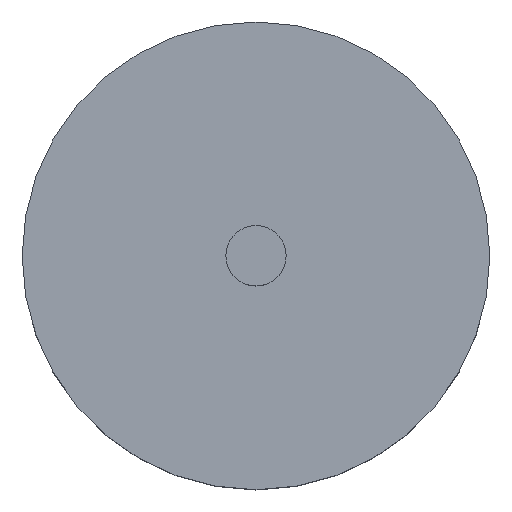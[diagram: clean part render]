
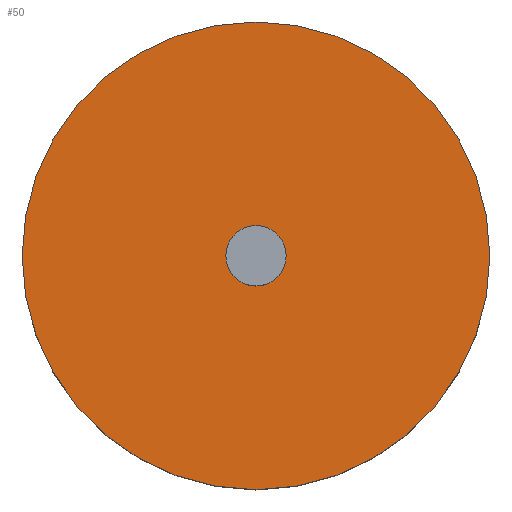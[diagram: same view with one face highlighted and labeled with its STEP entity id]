
A CAD part, top view. The second image highlights one B-rep face of the part: STEP entity #50.
In plain terms, the highlighted planar face has unit normal (0, 0, 1).
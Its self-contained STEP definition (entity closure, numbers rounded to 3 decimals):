
#21 = EDGE_CURVE('',#22,#22,#24,.T.);
#22 = VERTEX_POINT('',#23);
#23 = CARTESIAN_POINT('',(31.,0.,-1.));
#24 = CIRCLE('',#25,31.);
#25 = AXIS2_PLACEMENT_3D('',#26,#27,#28);
#26 = CARTESIAN_POINT('',(0.,0.,-1.));
#27 = DIRECTION('',(0.,0.,1.));
#28 = DIRECTION('',(1.,0.,-0.));
#50 = ADVANCED_FACE('',(#51,#54),#65,.T.);
#51 = FACE_BOUND('',#52,.T.);
#52 = EDGE_LOOP('',(#53));
#53 = ORIENTED_EDGE('',*,*,#21,.T.);
#54 = FACE_BOUND('',#55,.T.);
#55 = EDGE_LOOP('',(#56));
#56 = ORIENTED_EDGE('',*,*,#57,.F.);
#57 = EDGE_CURVE('',#58,#58,#60,.T.);
#58 = VERTEX_POINT('',#59);
#59 = CARTESIAN_POINT('',(4.,0.,-1.));
#60 = CIRCLE('',#61,4.);
#61 = AXIS2_PLACEMENT_3D('',#62,#63,#64);
#62 = CARTESIAN_POINT('',(0.,0.,-1.));
#63 = DIRECTION('',(0.,0.,1.));
#64 = DIRECTION('',(1.,0.,-0.));
#65 = PLANE('',#66);
#66 = AXIS2_PLACEMENT_3D('',#67,#68,#69);
#67 = CARTESIAN_POINT('',(0.,0.,-1.));
#68 = DIRECTION('',(0.,0.,1.));
#69 = DIRECTION('',(1.,0.,-0.));
